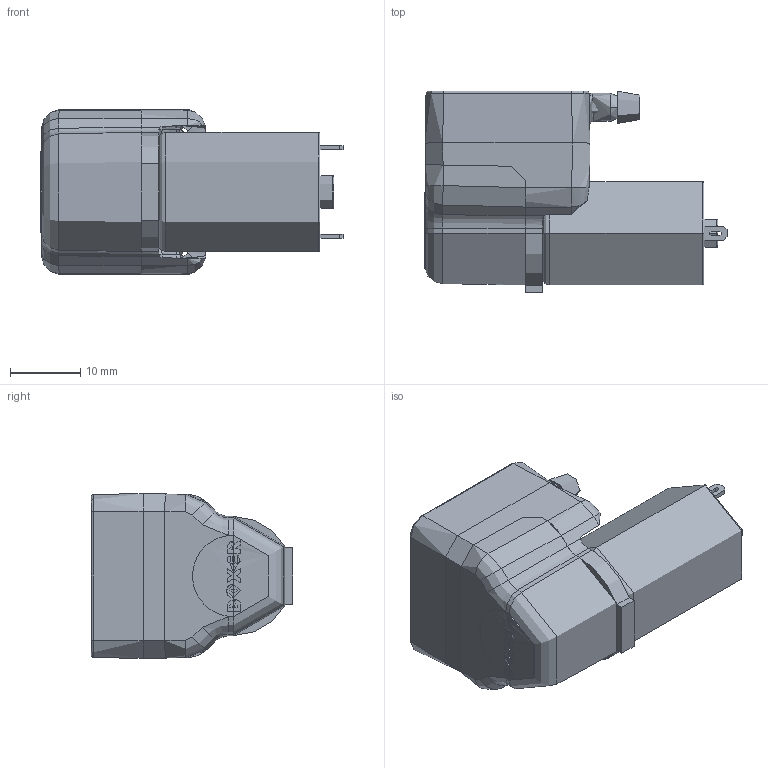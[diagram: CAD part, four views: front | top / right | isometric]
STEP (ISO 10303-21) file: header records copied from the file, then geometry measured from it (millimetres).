
FILE_DESCRIPTION (( 'STEP AP203' ), '1' );
FILE_NAME ('22K Iron Core.STEP', '2016-01-09T08:56:02', ( '' ), ( '' ), 'SwSTEP 2.0', 'SolidWorks 2014', '' );
FILE_SCHEMA (( 'CONFIG_CONTROL_DESIGN' ));
Length unit declared in the file: metre
Products named in the file (1): 22K Iron Core
Bounding box: 43.09 x 28.75 x 23.5 mm (x, y, z)
Topology: 0 solids, 14 shells, 351 faces, 1048 edges, 714 vertices
Faces by surface type: plane 164, cylinder 86, bspline 60, cone 27, torus 14
Entity records: 17664 total; most frequent: CARTESIAN_POINT 8884, ORIENTED_EDGE 1830, DIRECTION 1540, EDGE_CURVE 1051, VERTEX_POINT 717, VECTOR 528, LINE 528, AXIS2_PLACEMENT_3D 506
